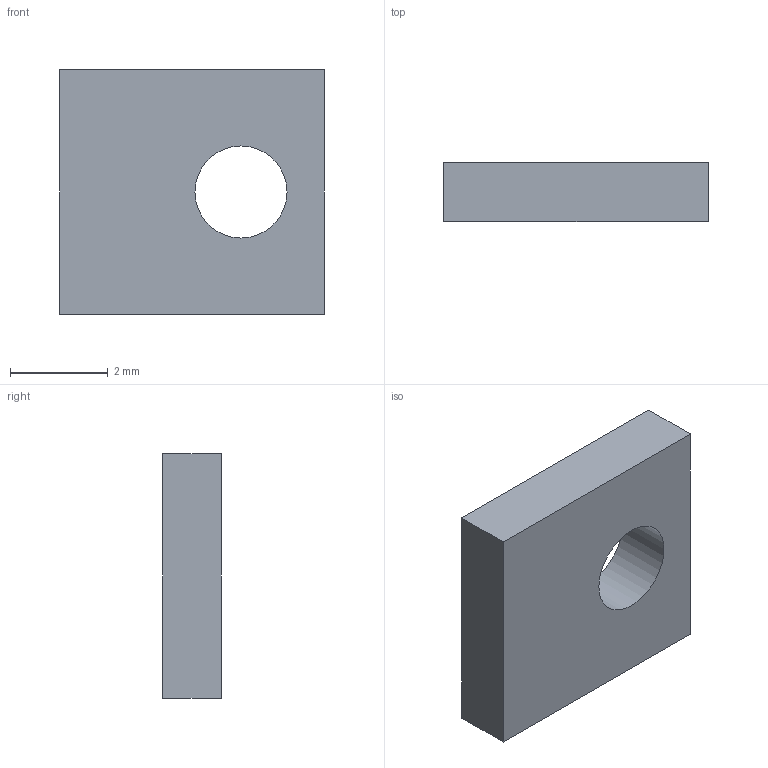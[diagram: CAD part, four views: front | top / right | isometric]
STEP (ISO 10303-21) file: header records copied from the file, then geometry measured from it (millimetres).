
FILE_DESCRIPTION(('Open CASCADE Model'),'2;1');
FILE_NAME('Open CASCADE Shape Model','2026-10-19T09:32:29',('Author'),( 'Open CASCADE'),'Open CASCADE STEP processor 7.9','Open CASCADE 7.9' ,'Unknown');
FILE_SCHEMA(('AUTOMOTIVE_DESIGN { 1 0 10303 214 1 1 1 1 }'));
Length unit declared in the file: millimetre
Products named in the file (1): Open CASCADE STEP translator 7.9 6
Bounding box: 5.4 x 1.2 x 5 mm (x, y, z)
Volume: 29.1 mm3; surface area: 80.5 mm2
Topology: 1 solids, 1 shells, 7 faces, 15 edges, 10 vertices
Faces by surface type: plane 6, cylinder 1
Full cylindrical faces by diameter (mm): 1.88 x1
Entity records: 400 total; most frequent: CARTESIAN_POINT 63, DIRECTION 63, LINE 41, VECTOR 41, ORIENTED_EDGE 30, PCURVE 30, DEFINITIONAL_REPRESENTATION 30, EDGE_CURVE 15
